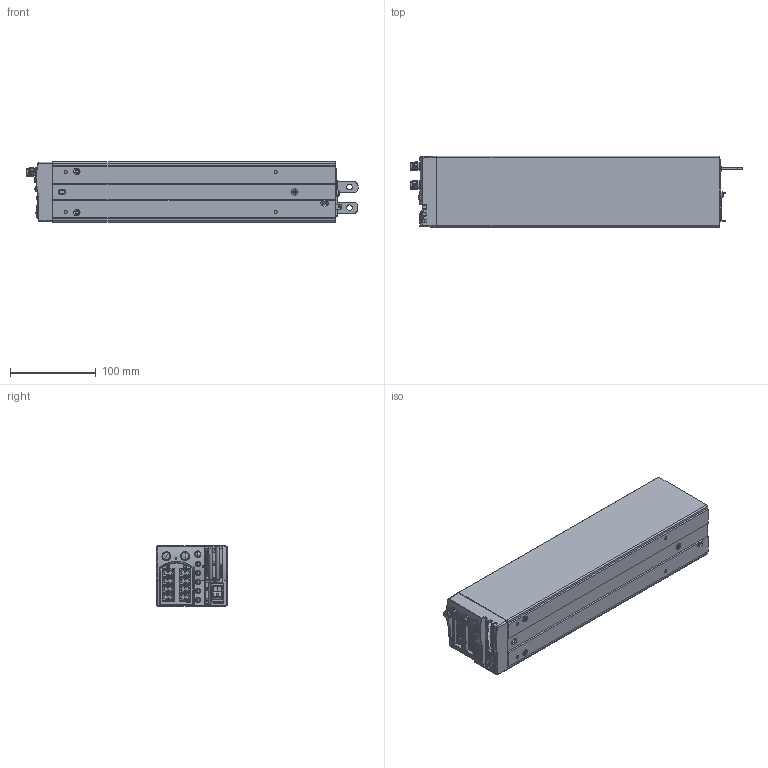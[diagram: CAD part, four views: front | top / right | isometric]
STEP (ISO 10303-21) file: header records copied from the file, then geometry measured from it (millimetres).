
FILE_DESCRIPTION((''),'2;1');
FILE_NAME('ASSY_RMX-410X','2017-11-17T',('gvillanu'),(''),'CREO PARAMETRIC BY PTC INC, 2015380','CREO PARAMETRIC BY PTC INC, 2015380','');
FILE_SCHEMA(('CONFIG_CONTROL_DESIGN'));
Products named in the file (1): ASSY_RMX-410X
Bounding box: 387.3 x 83 x 70 mm (x, y, z)
Volume: 219147.9 mm3; surface area: 275403.7 mm2
Topology: 18 solids, 18 shells, 5608 faces, 14966 edges, 9535 vertices
Faces by surface type: plane 3813, cylinder 1106, cone 296, bspline 180, torus 102, sphere 86, extrusion 25
Entity records: 189979 total; most frequent: CARTESIAN_POINT 51494, ORIENTED_EDGE 29678, DIRECTION 27237, EDGE_CURVE 14839, VECTOR 10855, LINE 10830, VERTEX_POINT 9535, AXIS2_PLACEMENT_3D 8191
